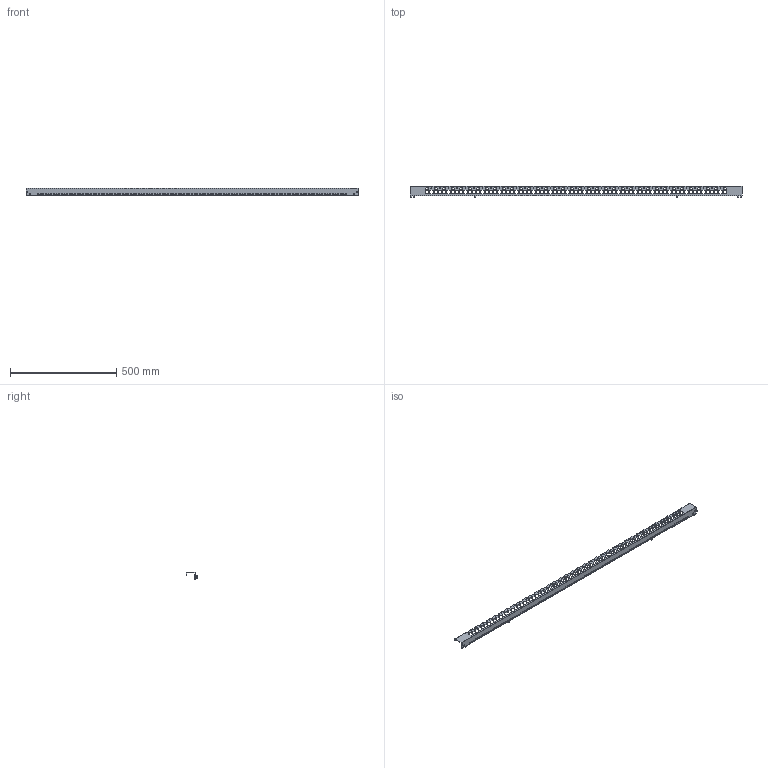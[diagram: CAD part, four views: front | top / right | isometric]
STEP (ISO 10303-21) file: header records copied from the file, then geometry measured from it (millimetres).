
FILE_DESCRIPTION(('Open CASCADE Model'),'2;1');
FILE_NAME('Open CASCADE Shape Model','2025-02-21T17:27:21',('Author'),( 'Open CASCADE'),'Open CASCADE STEP processor 7.8','Open CASCADE 7.8' ,'Unknown');
FILE_SCHEMA(('AUTOMOTIVE_DESIGN { 1 0 10303 214 1 1 1 1 }'));
Length unit declared in the file: millimetre
Products named in the file (3): Compound1; Solid1; Solid2
Assembly tree (7 placements, depth 2):
  Compound1
    Solid1
    Solid2  x6
Bounding box: 1562 x 53.5 x 35 mm (x, y, z)
Volume: 223920.1 mm3; surface area: 253184.5 mm2
Topology: 7 solids, 7 shells, 1175 faces, 3779 edges, 2552 vertices
Faces by surface type: plane 936, cylinder 203, torus 12, cone 12, sphere 6, bspline 6
Full cylindrical faces by diameter (mm): 4.4 x70, 5 x6, 6 x121, 9.5 x6
Entity records: 40932 total; most frequent: CARTESIAN_POINT 7761, ORIENTED_EDGE 7256, DIRECTION 6174, EDGE_CURVE 3628, LINE 2874, VECTOR 2874, VERTEX_POINT 2467, AXIS2_PLACEMENT_3D 1650
